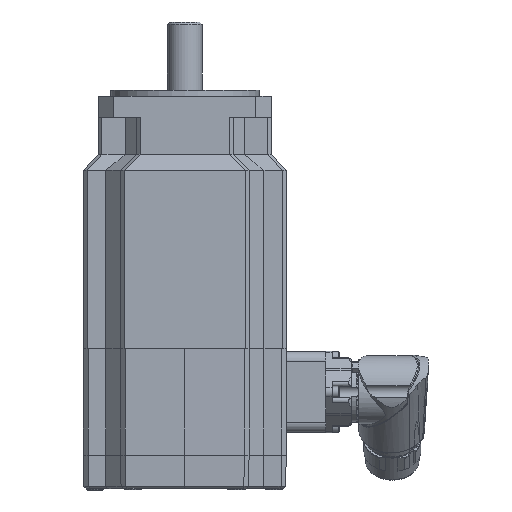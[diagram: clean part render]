
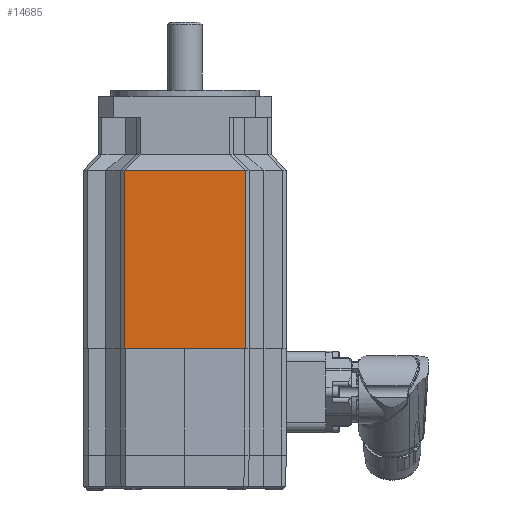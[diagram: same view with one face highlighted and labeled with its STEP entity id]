
A CAD part, front view. The second image highlights one B-rep face of the part: STEP entity #14685.
In plain terms, the highlighted planar face has unit normal (0, -1, 0).
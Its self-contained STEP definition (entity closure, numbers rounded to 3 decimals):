
#838=LINE('',#20679,#2009);
#844=LINE('',#20691,#2015);
#962=LINE('',#20958,#2133);
#1005=LINE('',#21037,#2176);
#1006=LINE('',#21039,#2177);
#1007=LINE('',#21040,#2178);
#2009=VECTOR('',#16898,0.483);
#2015=VECTOR('',#16906,0.483);
#2133=VECTOR('',#17148,49.);
#2176=VECTOR('',#17239,72.);
#2177=VECTOR('',#17242,48.035);
#2178=VECTOR('',#17243,72.);
#3212=PLANE('',#15592);
#3926=FACE_OUTER_BOUND('',#4825,.T.);
#4825=EDGE_LOOP('',(#10081,#10082,#10083,#10084,#10085,#10086));
#6278=VERTEX_POINT('',#20675);
#6280=VERTEX_POINT('',#20678);
#6283=VERTEX_POINT('',#20685);
#6285=VERTEX_POINT('',#20689);
#6371=VERTEX_POINT('',#20953);
#6372=VERTEX_POINT('',#20957);
#7645=EDGE_CURVE('',#6280,#6278,#838,.T.);
#7651=EDGE_CURVE('',#6283,#6285,#844,.T.);
#7780=EDGE_CURVE('',#6371,#6372,#962,.F.);
#7823=EDGE_CURVE('',#6372,#6285,#1005,.T.);
#7824=EDGE_CURVE('',#6283,#6278,#1006,.T.);
#7825=EDGE_CURVE('',#6371,#6280,#1007,.T.);
#10081=ORIENTED_EDGE('',*,*,#7645,.T.);
#10082=ORIENTED_EDGE('',*,*,#7824,.F.);
#10083=ORIENTED_EDGE('',*,*,#7651,.T.);
#10084=ORIENTED_EDGE('',*,*,#7823,.F.);
#10085=ORIENTED_EDGE('',*,*,#7780,.F.);
#10086=ORIENTED_EDGE('',*,*,#7825,.T.);
#14685=ADVANCED_FACE('',(#3926),#3212,.T.);
#15592=AXIS2_PLACEMENT_3D('',#21038,#17240,#17241);
#16898=DIRECTION('',(1.,0.,0.));
#16906=DIRECTION('',(1.,0.,0.));
#17148=DIRECTION('',(-1.,0.,0.));
#17239=DIRECTION('',(0.,0.,-1.));
#17240=DIRECTION('center_axis',(0.,-1.,0.));
#17241=DIRECTION('ref_axis',(0.,0.,1.));
#17242=DIRECTION('',(-1.,0.,0.));
#17243=DIRECTION('',(0.,0.,-1.));
#20675=CARTESIAN_POINT('',(-24.017,-41.,-102.));
#20678=CARTESIAN_POINT('',(-24.5,-41.,-102.));
#20679=CARTESIAN_POINT('',(-24.5,-41.,-102.));
#20685=CARTESIAN_POINT('',(24.017,-41.,-102.));
#20689=CARTESIAN_POINT('',(24.5,-41.,-102.));
#20691=CARTESIAN_POINT('',(-24.5,-41.,-102.));
#20953=CARTESIAN_POINT('',(-24.5,-41.,-30.));
#20957=CARTESIAN_POINT('',(24.5,-41.,-30.));
#20958=CARTESIAN_POINT('',(-12.25,-41.,-30.));
#21037=CARTESIAN_POINT('',(24.5,-41.,-8.5));
#21038=CARTESIAN_POINT('Origin',(-24.5,-41.,-8.5));
#21039=CARTESIAN_POINT('',(-12.25,-41.,-102.));
#21040=CARTESIAN_POINT('',(-24.5,-41.,-8.5));
